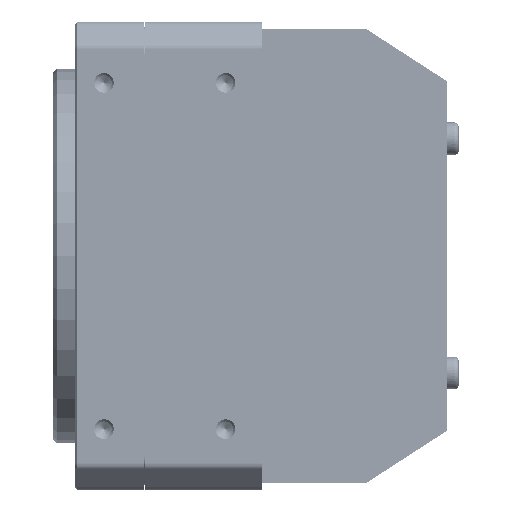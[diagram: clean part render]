
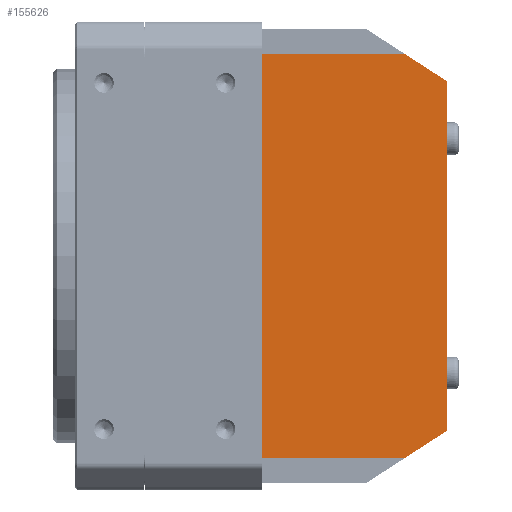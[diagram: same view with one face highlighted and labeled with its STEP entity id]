
A CAD part, front view. The second image highlights one B-rep face of the part: STEP entity #155626.
In plain terms, the highlighted planar face has unit normal (0, -1, 0).
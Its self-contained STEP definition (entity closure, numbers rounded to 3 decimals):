
#5373=DIRECTION('',(0.,0.,1.));
#5374=VECTOR('',#5373,0.258);
#5375=CARTESIAN_POINT('',(36.28,-48.4,-43.472));
#5376=LINE('',#5375,#5374);
#5377=DIRECTION('',(0.,0.,1.));
#5378=VECTOR('',#5377,0.258);
#5379=CARTESIAN_POINT('',(36.28,-48.4,43.214));
#5380=LINE('',#5379,#5378);
#5424=DIRECTION('',(1.,0.,0.));
#5425=VECTOR('',#5424,2.2);
#5426=CARTESIAN_POINT('',(34.08,-48.4,-43.472));
#5427=LINE('',#5426,#5425);
#5880=DIRECTION('',(-1.,0.,0.));
#5881=VECTOR('',#5880,2.2);
#5882=CARTESIAN_POINT('',(36.28,-48.4,43.472));
#5883=LINE('',#5882,#5881);
#5896=DIRECTION('',(0.,0.,-1.));
#5897=VECTOR('',#5896,86.943);
#5898=CARTESIAN_POINT('',(34.08,-48.4,43.472));
#5899=LINE('',#5898,#5897);
#79086=DIRECTION('',(0.84,0.,-0.543));
#79087=VECTOR('',#79086,10.701);
#79088=CARTESIAN_POINT('',(66.919,-48.4,43.214));
#79089=LINE('',#79088,#79087);
#79090=DIRECTION('',(-0.84,0.,-0.543));
#79091=VECTOR('',#79090,10.701);
#79092=CARTESIAN_POINT('',(75.904,-48.4,-37.4));
#79093=LINE('',#79092,#79091);
#79098=DIRECTION('',(-1.,0.,0.));
#79099=VECTOR('',#79098,30.639);
#79100=CARTESIAN_POINT('',(66.919,-48.4,43.214));
#79101=LINE('',#79100,#79099);
#79130=DIRECTION('',(1.,0.,0.));
#79131=VECTOR('',#79130,30.639);
#79132=CARTESIAN_POINT('',(36.28,-48.4,-43.214));
#79133=LINE('',#79132,#79131);
#79150=DIRECTION('',(0.,0.,1.));
#79151=VECTOR('',#79150,74.8);
#79152=CARTESIAN_POINT('',(75.904,-48.4,-37.4));
#79153=LINE('',#79152,#79151);
#86176=CARTESIAN_POINT('',(66.919,-48.4,43.214));
#86177=CARTESIAN_POINT('',(36.28,-48.4,43.214));
#86178=VERTEX_POINT('',#86176);
#86179=VERTEX_POINT('',#86177);
#86180=CARTESIAN_POINT('',(75.904,-48.4,37.4));
#86181=VERTEX_POINT('',#86180);
#86182=CARTESIAN_POINT('',(75.904,-48.4,-37.4));
#86183=CARTESIAN_POINT('',(66.919,-48.4,-43.214));
#86184=VERTEX_POINT('',#86182);
#86185=VERTEX_POINT('',#86183);
#86190=CARTESIAN_POINT('',(34.08,-48.4,-43.472));
#86191=CARTESIAN_POINT('',(36.28,-48.4,-43.472));
#86192=VERTEX_POINT('',#86190);
#86193=VERTEX_POINT('',#86191);
#86194=CARTESIAN_POINT('',(36.28,-48.4,-43.214));
#86195=VERTEX_POINT('',#86194);
#86200=CARTESIAN_POINT('',(36.28,-48.4,43.472));
#86201=VERTEX_POINT('',#86200);
#86278=CARTESIAN_POINT('',(34.08,-48.4,43.472));
#86279=VERTEX_POINT('',#86278);
#155604=CARTESIAN_POINT('',(54.992,-48.4,0.));
#155605=DIRECTION('',(0.,1.,0.));
#155606=DIRECTION('',(1.,0.,0.));
#155607=AXIS2_PLACEMENT_3D('',#155604,#155605,#155606);
#155608=PLANE('',#155607);
#155609=ORIENTED_EDGE('',*,*,#94586,.F.);
#155610=ORIENTED_EDGE('',*,*,#95330,.F.);
#155611=ORIENTED_EDGE('',*,*,#95312,.F.);
#155612=ORIENTED_EDGE('',*,*,#94491,.F.);
#155614=ORIENTED_EDGE('',*,*,#155613,.F.);
#155616=ORIENTED_EDGE('',*,*,#155615,.T.);
#155618=ORIENTED_EDGE('',*,*,#155617,.F.);
#155620=ORIENTED_EDGE('',*,*,#155619,.T.);
#155622=ORIENTED_EDGE('',*,*,#155621,.F.);
#155623=ORIENTED_EDGE('',*,*,#94483,.F.);
#155624=EDGE_LOOP('',(#155609,#155610,#155611,#155612,#155614,#155616,#155618,
#155620,#155622,#155623));
#155625=FACE_OUTER_BOUND('',#155624,.F.);
#155626=ADVANCED_FACE('',(#155625),#155608,.F.);
#94483=EDGE_CURVE('',#86193,#86195,#5376,.T.);
#94491=EDGE_CURVE('',#86179,#86201,#5380,.T.);
#94586=EDGE_CURVE('',#86192,#86193,#5427,.T.);
#95312=EDGE_CURVE('',#86201,#86279,#5883,.T.);
#95330=EDGE_CURVE('',#86279,#86192,#5899,.T.);
#155613=EDGE_CURVE('',#86178,#86179,#79101,.T.);
#155615=EDGE_CURVE('',#86178,#86181,#79089,.T.);
#155617=EDGE_CURVE('',#86184,#86181,#79153,.T.);
#155619=EDGE_CURVE('',#86184,#86185,#79093,.T.);
#155621=EDGE_CURVE('',#86195,#86185,#79133,.T.);
